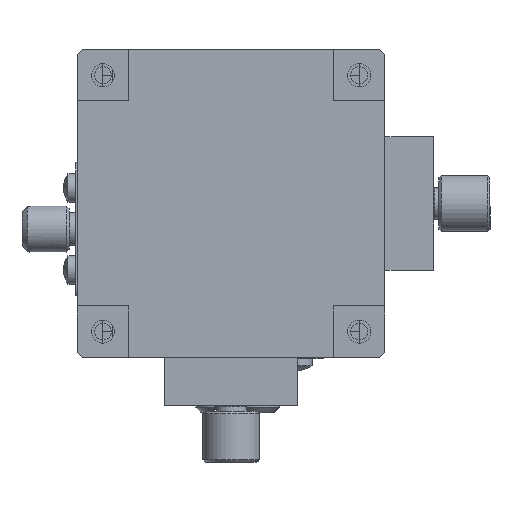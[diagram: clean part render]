
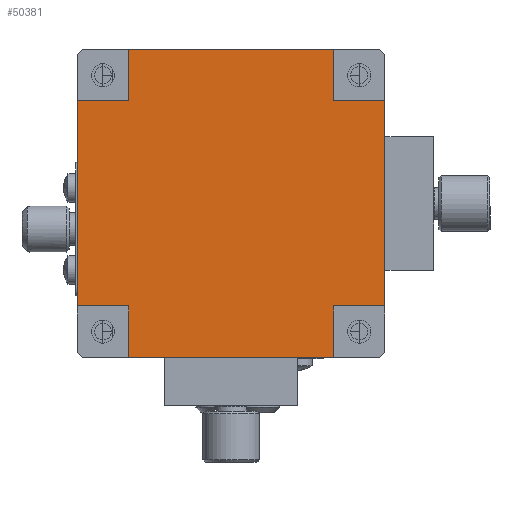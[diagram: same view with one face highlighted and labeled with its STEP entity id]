
A CAD part, front view. The second image highlights one B-rep face of the part: STEP entity #50381.
In plain terms, the highlighted planar face has unit normal (0, -1, 0).
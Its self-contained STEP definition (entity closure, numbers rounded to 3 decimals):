
#213 = VECTOR ( 'NONE', #26174, 1000. ) ;
#243 = LINE ( 'NONE', #62939, #622 ) ;
#622 = VECTOR ( 'NONE', #17970, 1000. ) ;
#745 = FACE_OUTER_BOUND ( 'NONE', #66619, .T. ) ;
#2206 = CARTESIAN_POINT ( 'NONE',  ( -69.793, -33.6, 45.419 ) ) ;
#3231 = EDGE_CURVE ( 'NONE', #39778, #45497, #20203, .T. ) ;
#5752 = CARTESIAN_POINT ( 'NONE',  ( -19.793, -33.6, 45.419 ) ) ;
#6403 = PLANE ( 'NONE',  #56343 ) ;
#6459 = CARTESIAN_POINT ( 'NONE',  ( -59.793, -33.6, 35.419 ) ) ;
#7026 = CARTESIAN_POINT ( 'NONE',  ( -19.793, -33.6, 35.419 ) ) ;
#7248 = CARTESIAN_POINT ( 'NONE',  ( -59.793, -33.6, 85.419 ) ) ;
#7513 = CARTESIAN_POINT ( 'NONE',  ( -39.793, -33.6, 65.419 ) ) ;
#8104 = CARTESIAN_POINT ( 'NONE',  ( -19.793, -33.6, 95.419 ) ) ;
#10056 = CARTESIAN_POINT ( 'NONE',  ( -9.793, -33.6, 35.419 ) ) ;
#10306 = LINE ( 'NONE', #67016, #32173 ) ;
#10812 = ORIENTED_EDGE ( 'NONE', *, *, #3231, .F. ) ;
#11005 = DIRECTION ( 'NONE',  ( -1., 0., 0. ) ) ;
#11116 = VECTOR ( 'NONE', #67161, 1000. ) ;
#12237 = CARTESIAN_POINT ( 'NONE',  ( -9.793, -33.6, 45.419 ) ) ;
#13570 = ORIENTED_EDGE ( 'NONE', *, *, #42125, .F. ) ;
#13910 = CARTESIAN_POINT ( 'NONE',  ( -9.793, -33.6, 85.419 ) ) ;
#14413 = VERTEX_POINT ( 'NONE', #62873 ) ;
#14734 = LINE ( 'NONE', #66524, #42307 ) ;
#14822 = CARTESIAN_POINT ( 'NONE',  ( -69.793, -33.6, 35.419 ) ) ;
#15259 = CARTESIAN_POINT ( 'NONE',  ( -59.793, -33.6, 95.419 ) ) ;
#15890 = ORIENTED_EDGE ( 'NONE', *, *, #68118, .T. ) ;
#17970 = DIRECTION ( 'NONE',  ( -1., 0., 0. ) ) ;
#19063 = VERTEX_POINT ( 'NONE', #22494 ) ;
#19244 = VERTEX_POINT ( 'NONE', #52697 ) ;
#20203 = LINE ( 'NONE', #15259, #20508 ) ;
#20311 = LINE ( 'NONE', #43367, #37599 ) ;
#20508 = VECTOR ( 'NONE', #55714, 1000. ) ;
#20705 = LINE ( 'NONE', #13910, #11116 ) ;
#21166 = DIRECTION ( 'NONE',  ( -1., 0., 0. ) ) ;
#21604 = VECTOR ( 'NONE', #11005, 1000. ) ;
#21719 = CARTESIAN_POINT ( 'NONE',  ( -59.793, -33.6, 35.419 ) ) ;
#22411 = DIRECTION ( 'NONE',  ( 1., 0., 0. ) ) ;
#22494 = CARTESIAN_POINT ( 'NONE',  ( -59.793, -33.6, 45.419 ) ) ;
#24537 = DIRECTION ( 'NONE',  ( 0., 0., 1. ) ) ;
#25479 = VERTEX_POINT ( 'NONE', #21719 ) ;
#26174 = DIRECTION ( 'NONE',  ( 0., 0., -1. ) ) ;
#26953 = VERTEX_POINT ( 'NONE', #12237 ) ;
#29289 = VECTOR ( 'NONE', #47089, 1000. ) ;
#29476 = DIRECTION ( 'NONE',  ( 0., -1., 0. ) ) ;
#30067 = LINE ( 'NONE', #8104, #64526 ) ;
#30116 = ORIENTED_EDGE ( 'NONE', *, *, #55780, .F. ) ;
#31549 = ORIENTED_EDGE ( 'NONE', *, *, #40899, .F. ) ;
#32173 = VECTOR ( 'NONE', #22411, 1000. ) ;
#32757 = EDGE_CURVE ( 'NONE', #26953, #34134, #61822, .T. ) ;
#33120 = DIRECTION ( 'NONE',  ( 0., 0., 1. ) ) ;
#33766 = EDGE_CURVE ( 'NONE', #19063, #69044, #20311, .T. ) ;
#34134 = VERTEX_POINT ( 'NONE', #47061 ) ;
#35165 = EDGE_CURVE ( 'NONE', #46242, #34134, #20705, .T. ) ;
#37599 = VECTOR ( 'NONE', #67150, 1000. ) ;
#39778 = VERTEX_POINT ( 'NONE', #7248 ) ;
#40899 = EDGE_CURVE ( 'NONE', #19244, #46242, #30067, .T. ) ;
#41584 = VERTEX_POINT ( 'NONE', #61535 ) ;
#42125 = EDGE_CURVE ( 'NONE', #26953, #52710, #243, .T. ) ;
#42307 = VECTOR ( 'NONE', #21166, 1000. ) ;
#43168 = ORIENTED_EDGE ( 'NONE', *, *, #35165, .F. ) ;
#43367 = CARTESIAN_POINT ( 'NONE',  ( -69.793, -33.6, 45.419 ) ) ;
#45497 = VERTEX_POINT ( 'NONE', #59759 ) ;
#45587 = ORIENTED_EDGE ( 'NONE', *, *, #52590, .F. ) ;
#45769 = DIRECTION ( 'NONE',  ( 0., 0., 1. ) ) ;
#46242 = VERTEX_POINT ( 'NONE', #59487 ) ;
#47061 = CARTESIAN_POINT ( 'NONE',  ( -9.793, -33.6, 85.419 ) ) ;
#47089 = DIRECTION ( 'NONE',  ( 0., 0., -1. ) ) ;
#47158 = VECTOR ( 'NONE', #45769, 1000. ) ;
#50381 = ADVANCED_FACE ( 'NONE', ( #745 ), #6403, .T. ) ;
#51083 = LINE ( 'NONE', #51825, #21604 ) ;
#51445 = LINE ( 'NONE', #6459, #47158 ) ;
#51825 = CARTESIAN_POINT ( 'NONE',  ( -9.793, -33.6, 35.419 ) ) ;
#52590 = EDGE_CURVE ( 'NONE', #14413, #39778, #10306, .T. ) ;
#52697 = CARTESIAN_POINT ( 'NONE',  ( -19.793, -33.6, 95.419 ) ) ;
#52710 = VERTEX_POINT ( 'NONE', #5752 ) ;
#53836 = DIRECTION ( 'NONE',  ( 0., 0., -1. ) ) ;
#55714 = DIRECTION ( 'NONE',  ( 0., 0., 1. ) ) ;
#55780 = EDGE_CURVE ( 'NONE', #41584, #25479, #51083, .T. ) ;
#56343 = AXIS2_PLACEMENT_3D ( 'NONE', #7513, #29476, #24537 ) ;
#58448 = EDGE_CURVE ( 'NONE', #25479, #19063, #51445, .T. ) ;
#58675 = EDGE_CURVE ( 'NONE', #19244, #45497, #14734, .T. ) ;
#58832 = ORIENTED_EDGE ( 'NONE', *, *, #32757, .T. ) ;
#59487 = CARTESIAN_POINT ( 'NONE',  ( -19.793, -33.6, 85.419 ) ) ;
#59759 = CARTESIAN_POINT ( 'NONE',  ( -59.793, -33.6, 95.419 ) ) ;
#60074 = ORIENTED_EDGE ( 'NONE', *, *, #69491, .F. ) ;
#60908 = LINE ( 'NONE', #14822, #213 ) ;
#61535 = CARTESIAN_POINT ( 'NONE',  ( -19.793, -33.6, 35.419 ) ) ;
#61551 = VECTOR ( 'NONE', #33120, 1000. ) ;
#61822 = LINE ( 'NONE', #10056, #61551 ) ;
#62873 = CARTESIAN_POINT ( 'NONE',  ( -69.793, -33.6, 85.419 ) ) ;
#62939 = CARTESIAN_POINT ( 'NONE',  ( -9.793, -33.6, 45.419 ) ) ;
#64526 = VECTOR ( 'NONE', #53836, 1000. ) ;
#64843 = LINE ( 'NONE', #7026, #29289 ) ;
#64905 = ORIENTED_EDGE ( 'NONE', *, *, #33766, .F. ) ;
#66149 = ORIENTED_EDGE ( 'NONE', *, *, #58675, .T. ) ;
#66524 = CARTESIAN_POINT ( 'NONE',  ( -9.793, -33.6, 95.419 ) ) ;
#66619 = EDGE_LOOP ( 'NONE', ( #58832, #43168, #31549, #66149, #10812, #45587, #15890, #64905, #72699, #30116, #60074, #13570 ) ) ;
#67016 = CARTESIAN_POINT ( 'NONE',  ( -69.793, -33.6, 85.419 ) ) ;
#67150 = DIRECTION ( 'NONE',  ( -1., 0., 0. ) ) ;
#67161 = DIRECTION ( 'NONE',  ( 1., 0., 0. ) ) ;
#68118 = EDGE_CURVE ( 'NONE', #14413, #69044, #60908, .T. ) ;
#69044 = VERTEX_POINT ( 'NONE', #2206 ) ;
#69491 = EDGE_CURVE ( 'NONE', #52710, #41584, #64843, .T. ) ;
#72699 = ORIENTED_EDGE ( 'NONE', *, *, #58448, .F. ) ;
